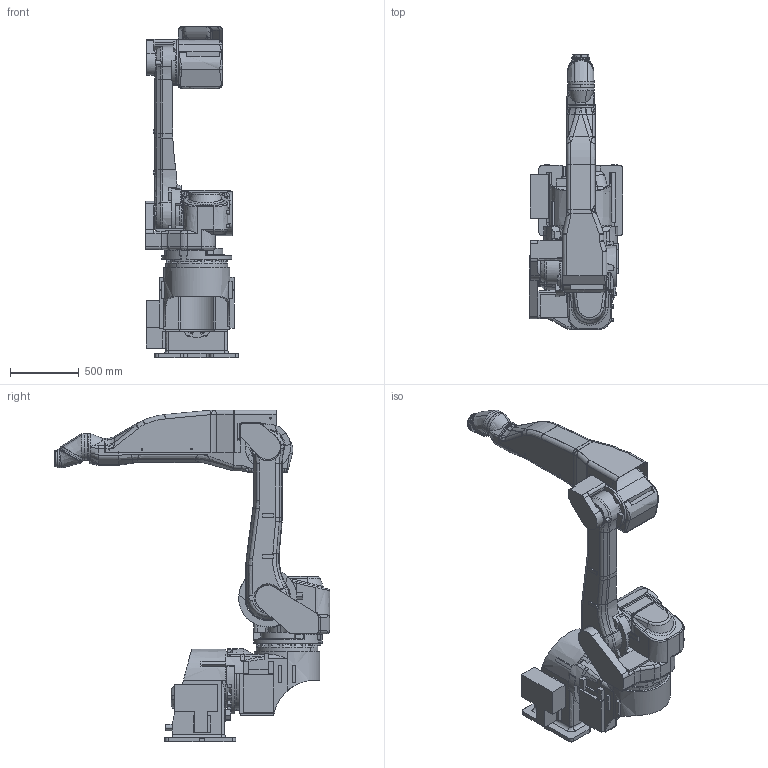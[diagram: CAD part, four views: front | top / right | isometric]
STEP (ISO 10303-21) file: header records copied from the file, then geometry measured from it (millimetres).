
FILE_DESCRIPTION(('CATIA V5 STEP Exchange'),'2;1');
FILE_NAME('F:\☆新しいフォルダ\【K-ROSET】\K-ROSET_モデル\ロボット\※ロボット\※K\KJ\KJ_IGES(原点未修整）_120615\KJ314\KJ314-A001_J3CoverM_150417\KJ314-A001_J3CoverM.stp','2015-04-17T02:54:23+00:00',('none'),('none'),'Version 5-6 Release 2012','CATIA V5 STEP AP203','none');
FILE_SCHEMA(('CONFIG_CONTROL_DESIGN'));
Products named in the file (1): KJ314-A001_J3CoverM
Assembly tree (9 placements, depth 2):
  KJ314-A001_J3CoverM
    #57
    #30508
    #62435
    #86514
    #122965
    #138646
    #140967
    #145033
    #156811
Bounding box: 680 x 2005 x 2417 mm (x, y, z)
Volume: 267943276.9 mm3; surface area: 11039660.5 mm2
Topology: 5 solids, 218 shells, 1544 faces, 15615 edges, 14290 vertices
Faces by surface type: plane 787, bspline 657, cylinder 88, revolution 12
Entity records: 188073 total; most frequent: CARTESIAN_POINT 101554, ORIENTED_EDGE 30037, EDGE_CURVE 15574, B_SPLINE_CURVE_WITH_KNOTS 14891, VERTEX_POINT 14290, DIRECTION 2491, EDGE_LOOP 1619, ADVANCED_FACE 1544
